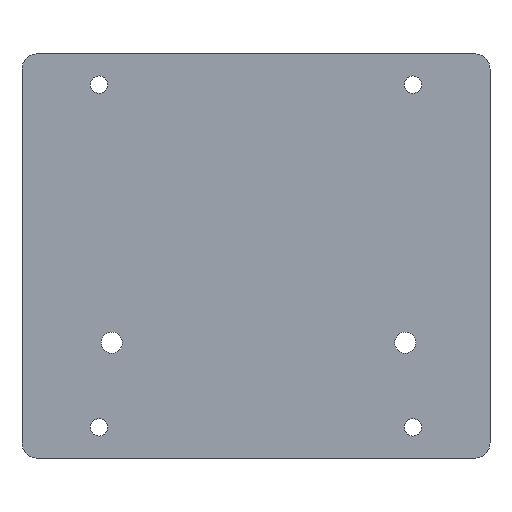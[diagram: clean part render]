
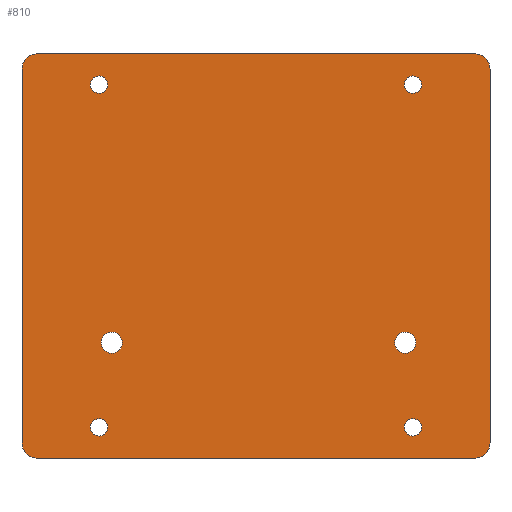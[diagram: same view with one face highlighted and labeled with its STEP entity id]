
A CAD part, front view. The second image highlights one B-rep face of the part: STEP entity #810.
In plain terms, the highlighted planar face has unit normal (0, -1, 0).
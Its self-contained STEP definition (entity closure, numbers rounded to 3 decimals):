
#38=PLANE('',#914);
#78=LINE('',#1359,#126);
#81=LINE('',#1372,#129);
#84=LINE('',#1380,#132);
#86=LINE('',#1394,#134);
#126=VECTOR('',#1122,113.5);
#129=VECTOR('',#1137,97.);
#132=VECTOR('',#1146,113.5);
#134=VECTOR('',#1166,97.);
#165=FACE_BOUND('',#301,.T.);
#166=FACE_BOUND('',#302,.T.);
#167=FACE_BOUND('',#303,.T.);
#168=FACE_BOUND('',#304,.T.);
#169=FACE_BOUND('',#305,.T.);
#170=FACE_BOUND('',#306,.T.);
#220=FACE_OUTER_BOUND('',#300,.T.);
#300=EDGE_LOOP('',(#721,#722,#723,#724,#725,#726,#727,#728));
#301=EDGE_LOOP('',(#729));
#302=EDGE_LOOP('',(#730));
#303=EDGE_LOOP('',(#731));
#304=EDGE_LOOP('',(#732));
#305=EDGE_LOOP('',(#733));
#306=EDGE_LOOP('',(#734));
#307=CIRCLE('',#814,2.75);
#309=CIRCLE('',#817,2.75);
#347=CIRCLE('',#886,2.25);
#348=CIRCLE('',#888,2.25);
#349=CIRCLE('',#890,2.25);
#350=CIRCLE('',#892,2.25);
#351=CIRCLE('',#894,4.);
#354=CIRCLE('',#900,4.);
#355=CIRCLE('',#903,4.);
#356=CIRCLE('',#906,4.);
#359=VERTEX_POINT('',#1171);
#361=VERTEX_POINT('',#1176);
#419=VERTEX_POINT('',#1339);
#420=VERTEX_POINT('',#1342);
#421=VERTEX_POINT('',#1345);
#422=VERTEX_POINT('',#1348);
#423=VERTEX_POINT('',#1351);
#424=VERTEX_POINT('',#1353);
#425=VERTEX_POINT('',#1357);
#428=VERTEX_POINT('',#1366);
#429=VERTEX_POINT('',#1370);
#430=VERTEX_POINT('',#1374);
#431=VERTEX_POINT('',#1378);
#432=VERTEX_POINT('',#1382);
#435=EDGE_CURVE('',#359,#359,#307,.T.);
#437=EDGE_CURVE('',#361,#361,#309,.T.);
#511=EDGE_CURVE('',#419,#419,#347,.T.);
#512=EDGE_CURVE('',#420,#420,#348,.T.);
#513=EDGE_CURVE('',#421,#421,#349,.T.);
#514=EDGE_CURVE('',#422,#422,#350,.T.);
#516=EDGE_CURVE('',#423,#424,#351,.T.);
#519=EDGE_CURVE('',#425,#423,#78,.T.);
#523=EDGE_CURVE('',#428,#425,#354,.T.);
#525=EDGE_CURVE('',#429,#428,#81,.T.);
#527=EDGE_CURVE('',#430,#429,#355,.T.);
#529=EDGE_CURVE('',#431,#430,#84,.T.);
#531=EDGE_CURVE('',#432,#431,#356,.T.);
#534=EDGE_CURVE('',#424,#432,#86,.T.);
#721=ORIENTED_EDGE('',*,*,#516,.F.);
#722=ORIENTED_EDGE('',*,*,#519,.F.);
#723=ORIENTED_EDGE('',*,*,#523,.F.);
#724=ORIENTED_EDGE('',*,*,#525,.F.);
#725=ORIENTED_EDGE('',*,*,#527,.F.);
#726=ORIENTED_EDGE('',*,*,#529,.F.);
#727=ORIENTED_EDGE('',*,*,#531,.F.);
#728=ORIENTED_EDGE('',*,*,#534,.F.);
#729=ORIENTED_EDGE('',*,*,#435,.T.);
#730=ORIENTED_EDGE('',*,*,#437,.T.);
#731=ORIENTED_EDGE('',*,*,#511,.T.);
#732=ORIENTED_EDGE('',*,*,#512,.T.);
#733=ORIENTED_EDGE('',*,*,#513,.T.);
#734=ORIENTED_EDGE('',*,*,#514,.T.);
#810=ADVANCED_FACE('',(#220,#165,#166,#167,#168,#169,#170),#38,.T.);
#814=AXIS2_PLACEMENT_3D('',#1172,#919,#920);
#817=AXIS2_PLACEMENT_3D('',#1177,#925,#926);
#886=AXIS2_PLACEMENT_3D('',#1340,#1099,#1100);
#888=AXIS2_PLACEMENT_3D('',#1343,#1103,#1104);
#890=AXIS2_PLACEMENT_3D('',#1346,#1107,#1108);
#892=AXIS2_PLACEMENT_3D('',#1349,#1111,#1112);
#894=AXIS2_PLACEMENT_3D('',#1354,#1116,#1117);
#900=AXIS2_PLACEMENT_3D('',#1368,#1132,#1133);
#903=AXIS2_PLACEMENT_3D('',#1376,#1141,#1142);
#906=AXIS2_PLACEMENT_3D('',#1384,#1150,#1151);
#914=AXIS2_PLACEMENT_3D('',#1395,#1167,#1168);
#919=DIRECTION('center_axis',(0.,1.,0.));
#920=DIRECTION('ref_axis',(1.,0.,0.));
#925=DIRECTION('center_axis',(0.,1.,0.));
#926=DIRECTION('ref_axis',(1.,0.,0.));
#1099=DIRECTION('center_axis',(0.,1.,0.));
#1100=DIRECTION('ref_axis',(1.,0.,0.));
#1103=DIRECTION('center_axis',(0.,1.,0.));
#1104=DIRECTION('ref_axis',(1.,0.,0.));
#1107=DIRECTION('center_axis',(0.,1.,0.));
#1108=DIRECTION('ref_axis',(1.,0.,0.));
#1111=DIRECTION('center_axis',(0.,1.,0.));
#1112=DIRECTION('ref_axis',(1.,0.,0.));
#1116=DIRECTION('center_axis',(0.,1.,0.));
#1117=DIRECTION('ref_axis',(-0.707,0.,-0.707));
#1122=DIRECTION('',(-1.,0.,0.));
#1132=DIRECTION('center_axis',(0.,1.,0.));
#1133=DIRECTION('ref_axis',(0.707,0.,-0.707));
#1137=DIRECTION('',(0.,0.,-1.));
#1141=DIRECTION('center_axis',(0.,1.,0.));
#1142=DIRECTION('ref_axis',(0.707,0.,0.707));
#1146=DIRECTION('',(1.,0.,0.));
#1150=DIRECTION('center_axis',(0.,1.,0.));
#1151=DIRECTION('ref_axis',(-0.707,0.,0.707));
#1166=DIRECTION('',(0.,0.,1.));
#1167=DIRECTION('center_axis',(0.,-1.,0.));
#1168=DIRECTION('ref_axis',(0.,0.,-1.));
#1171=CARTESIAN_POINT('',(-40.2,0.,-22.5));
#1172=CARTESIAN_POINT('Origin',(-37.45,0.,-22.5));
#1176=CARTESIAN_POINT('',(36.,0.,-22.5));
#1177=CARTESIAN_POINT('Origin',(38.75,0.,-22.5));
#1339=CARTESIAN_POINT('',(43.,0.,44.5));
#1340=CARTESIAN_POINT('Origin',(40.75,0.,44.5));
#1342=CARTESIAN_POINT('',(-38.5,0.,-44.5));
#1343=CARTESIAN_POINT('Origin',(-40.75,0.,-44.5));
#1345=CARTESIAN_POINT('',(43.,0.,-44.5));
#1346=CARTESIAN_POINT('Origin',(40.75,0.,-44.5));
#1348=CARTESIAN_POINT('',(-38.5,0.,44.5));
#1349=CARTESIAN_POINT('Origin',(-40.75,0.,44.5));
#1351=CARTESIAN_POINT('',(-56.75,0.,-52.5));
#1353=CARTESIAN_POINT('',(-60.75,0.,-48.5));
#1354=CARTESIAN_POINT('Origin',(-56.75,0.,-48.5));
#1357=CARTESIAN_POINT('',(56.75,0.,-52.5));
#1359=CARTESIAN_POINT('',(60.75,0.,-52.5));
#1366=CARTESIAN_POINT('',(60.75,0.,-48.5));
#1368=CARTESIAN_POINT('Origin',(56.75,0.,-48.5));
#1370=CARTESIAN_POINT('',(60.75,0.,48.5));
#1372=CARTESIAN_POINT('',(60.75,0.,52.5));
#1374=CARTESIAN_POINT('',(56.75,0.,52.5));
#1376=CARTESIAN_POINT('Origin',(56.75,0.,48.5));
#1378=CARTESIAN_POINT('',(-56.75,0.,52.5));
#1380=CARTESIAN_POINT('',(-60.75,0.,52.5));
#1382=CARTESIAN_POINT('',(-60.75,0.,48.5));
#1384=CARTESIAN_POINT('Origin',(-56.75,0.,48.5));
#1394=CARTESIAN_POINT('',(-60.75,0.,-52.5));
#1395=CARTESIAN_POINT('Origin',(0.,0.,0.));
